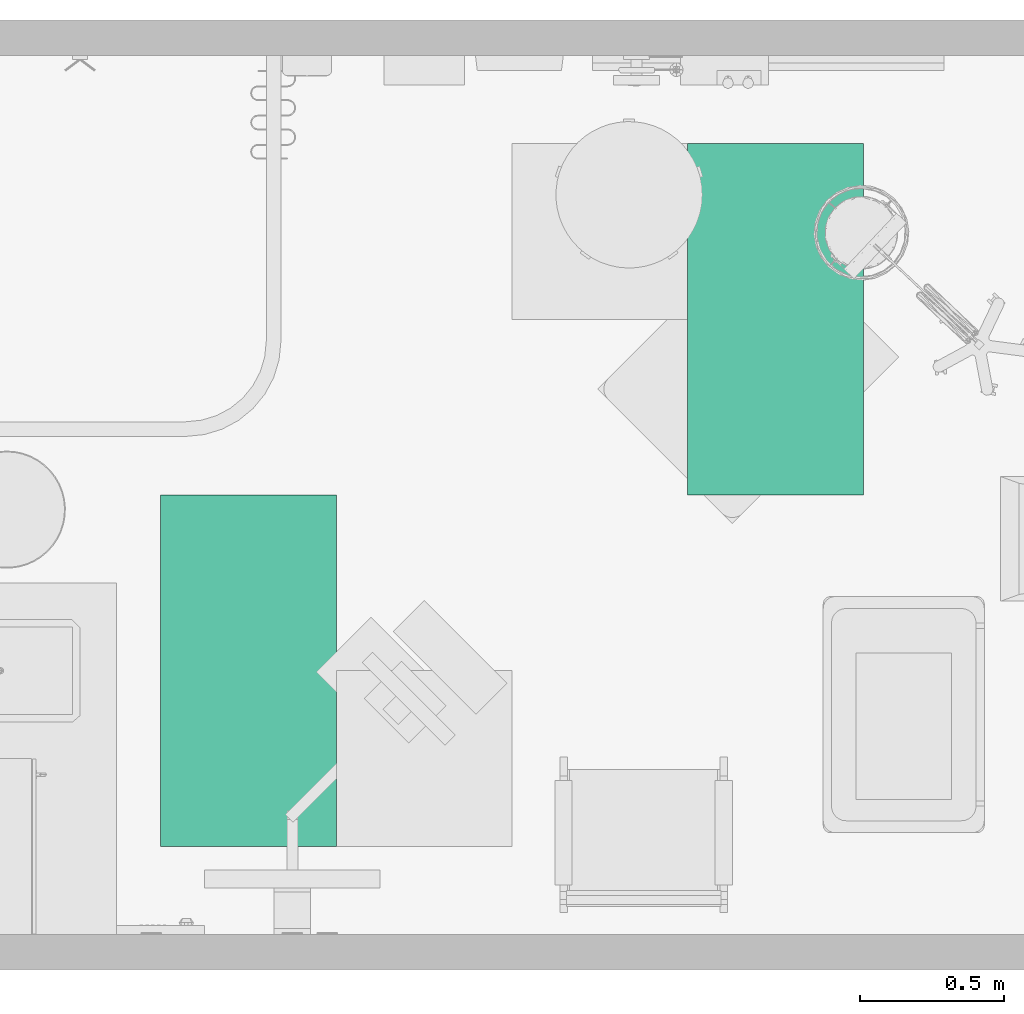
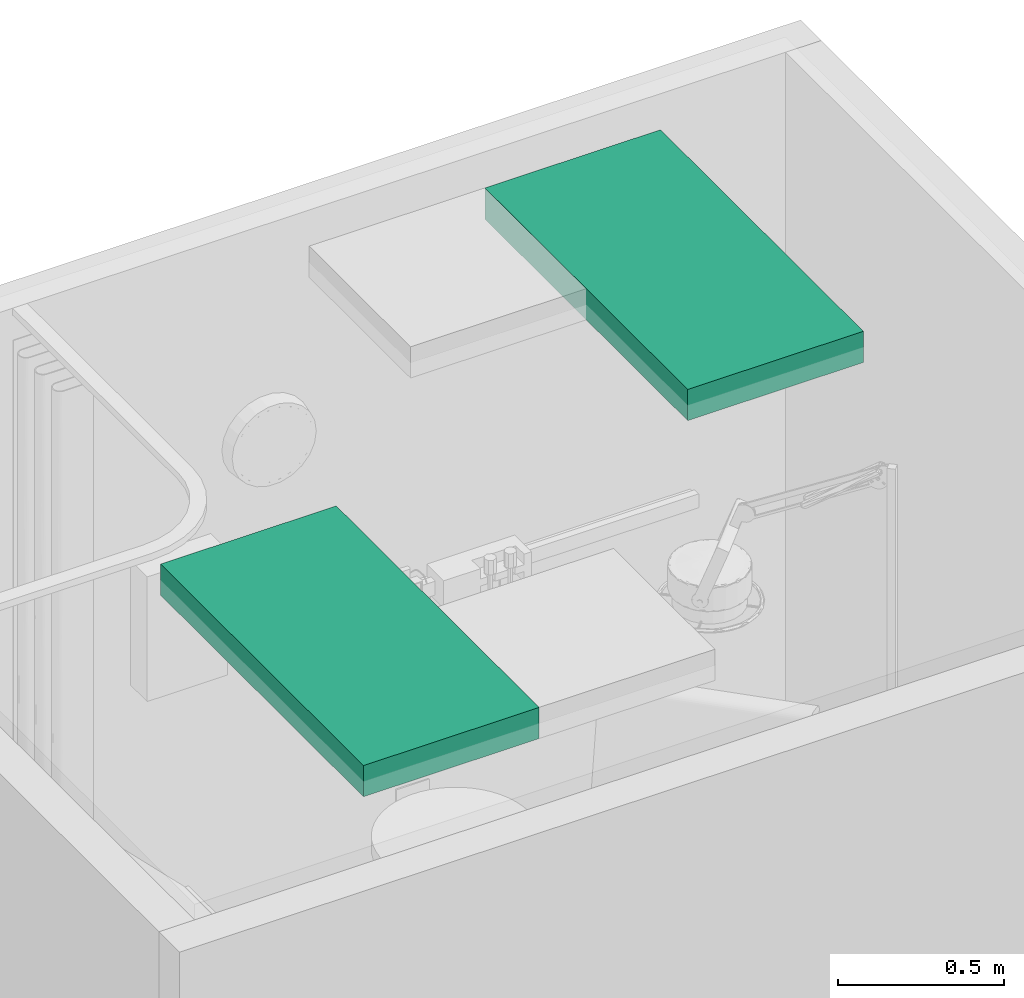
# One storey, part 4 of 10: 2 flow terminals.
"""IFC2X3 building model written with IfcOpenShell, lengths in feet."""

from ifc_helpers import new_model, entity, si_unit, converted_unit, derived_unit, direction, frame, frame_2d, origin, place, context, subcontext, project, spatial, rectangle, extrude, source, transform, mapped, type_object, type_shapes, element, save


model = new_model("IFC2X3")

# Units and contexts
model_context = context("Model", 3, precision=0.0001, world=origin(), true_north=direction((6.12303176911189e-17, 1.0)))
body_context = subcontext(model_context, "Body", "Model", "MODEL_VIEW")
ifc_project = project(units=[converted_unit("LENGTHUNIT", "FOOT", entity("IfcRatioMeasure", 0.3048), si_unit("LENGTHUNIT", "METRE"), dimensions=[1, 0, 0, 0, 0, 0, 0]), converted_unit("AREAUNIT", "SQUARE FOOT", entity("IfcRatioMeasure", 0.09290304), si_unit("AREAUNIT", "SQUARE_METRE"), dimensions=[2, 0, 0, 0, 0, 0, 0]), converted_unit("VOLUMEUNIT", "CUBIC FOOT", entity("IfcRatioMeasure", 0.028316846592), si_unit("VOLUMEUNIT", "CUBIC_METRE"), dimensions=[3, 0, 0, 0, 0, 0, 0]), converted_unit("PLANEANGLEUNIT", "DEGREE", entity("IfcRatioMeasure", 0.0174532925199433), si_unit("PLANEANGLEUNIT", "RADIAN"), dimensions=[0, 0, 0, 0, 0, 0, 0]), si_unit("MASSUNIT", "GRAM", prefix="KILO"), derived_unit("MASSDENSITYUNIT", [(si_unit("MASSUNIT", "GRAM", prefix="KILO"), 1), (si_unit("LENGTHUNIT", "METRE"), -3)]), si_unit("TIMEUNIT", "SECOND"), si_unit("FREQUENCYUNIT", "HERTZ"), si_unit("THERMODYNAMICTEMPERATUREUNIT", "DEGREE_CELSIUS"), derived_unit("THERMALTRANSMITTANCEUNIT", [(si_unit("MASSUNIT", "GRAM", prefix="KILO"), 1), (si_unit("THERMODYNAMICTEMPERATUREUNIT", "KELVIN"), -1), (si_unit("TIMEUNIT", "SECOND"), -3)]), derived_unit("VOLUMETRICFLOWRATEUNIT", [(si_unit("LENGTHUNIT", "METRE"), 3), (si_unit("TIMEUNIT", "SECOND"), -1)]), si_unit("ELECTRICCURRENTUNIT", "AMPERE"), si_unit("ELECTRICVOLTAGEUNIT", "VOLT"), si_unit("POWERUNIT", "WATT"), si_unit("FORCEUNIT", "NEWTON"), si_unit("ILLUMINANCEUNIT", "LUX"), si_unit("LUMINOUSFLUXUNIT", "LUMEN"), si_unit("LUMINOUSINTENSITYUNIT", "CANDELA"), derived_unit("USERDEFINED", [(si_unit("MASSUNIT", "GRAM", prefix="KILO"), -1), (si_unit("LENGTHUNIT", "METRE"), -2), (si_unit("TIMEUNIT", "SECOND"), 3), (si_unit("LUMINOUSFLUXUNIT", "LUMEN"), 1)]), derived_unit("LINEARVELOCITYUNIT", [(si_unit("LENGTHUNIT", "METRE"), 1), (si_unit("TIMEUNIT", "SECOND"), -1)]), si_unit("PRESSUREUNIT", "PASCAL"), derived_unit("USERDEFINED", [(si_unit("LENGTHUNIT", "METRE"), -2), (si_unit("MASSUNIT", "GRAM", prefix="KILO"), 1), (si_unit("TIMEUNIT", "SECOND"), -2)])], contexts=[model_context])

# Site, building, storey, space
site_placement = place(None, origin())
site = spatial("IfcSite", under=ifc_project, at=site_placement, Name="Default", CompositionType="ELEMENT")
building_placement = place(site_placement, origin())
building = spatial("IfcBuilding", under=site, at=building_placement, Name="OUTPATIENT / PACT CLINIC (Ch. 265)", CompositionType="ELEMENT")
storey_placement = place(building_placement, origin())
storey = spatial("IfcBuildingStorey", under=building, at=storey_placement, Name="DATUM", CompositionType="ELEMENT", Elevation=0.0)
space_placement = place(storey_placement, origin())
space = spatial("IfcSpace", under=storey, at=space_placement, Name="WRTM3", CompositionType="ELEMENT", InteriorOrExteriorSpace="INTERNAL")

# Flow terminals
light_fixture_type = type_object("IfcLightFixtureType", Name="2'x4'", PredefinedType="NOTDEFINED")
shared_shape = source(origin(), body_context, "Body", "SweptSolid", [
    extrude(rectangle(XDim=4.00000000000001, YDim=2.0, at=frame_2d((0.0, 1.11022302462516e-16), x_axis=(1.0, 0.0))), frame((-0.0613631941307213, -0.195098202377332, 8.0), z_axis=(0.0, 0.0, 1.0), x_axis=(-1.0, 0.0, 0.0)), (0.0, 0.0, 1.0), 0.375),
])
type_shapes(light_fixture_type, [shared_shape])
for number, where, z_axis, x_axis in (
    (1, (245.571312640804, -852.794182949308, 1.0), (0.0, 0.0, 1.0), (0.0, 1.0, 0.0)),
    (2, (239.571312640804, -856.794182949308, 1.0), (0.0, 0.0, 1.0), (0.0, 1.0, 0.0)),
):
    element("IfcFlowTerminal", number, at=place(space_placement, frame(where, z_axis=z_axis, x_axis=x_axis)), inside=space, type_object=light_fixture_type, Name="Troffer Light:2'x4'", ObjectType="2'x4'", context=body_context, shape_type="MappedRepresentation", body=[
        mapped(shared_shape, transform((0.0, 0.0, 0.0), scale=1.0)),
    ])

save(model, "model.ifc")
